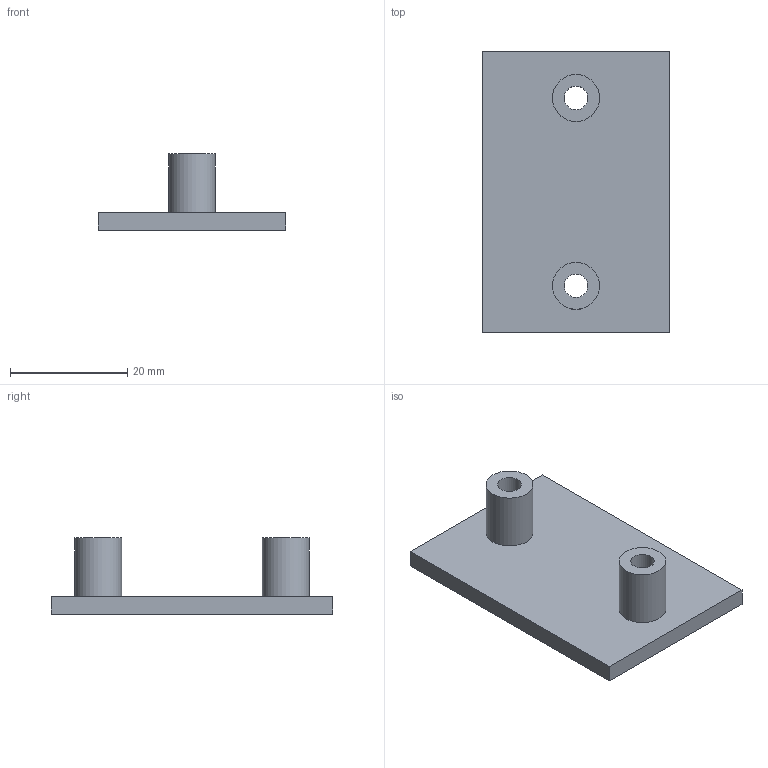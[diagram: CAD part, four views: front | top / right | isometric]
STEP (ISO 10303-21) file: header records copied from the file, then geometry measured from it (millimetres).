
FILE_DESCRIPTION(('Open CASCADE Model'),'2;1');
FILE_NAME('Open CASCADE Shape Model','2026-10-23T19:38:57',('Author'),( 'Open CASCADE'),'Open CASCADE STEP processor 8.0','Open CASCADE 8.0' ,'Unknown');
FILE_SCHEMA(('AUTOMOTIVE_DESIGN { 1 0 10303 214 1 1 1 1 }'));
Length unit declared in the file: millimetre
Products named in the file (4): Open CASCADE STEP translator 8.0 6; Open CASCADE STEP translator 8.0 6.1; Open CASCADE STEP translator 8.0 6.2; Open CASCADE STEP translator 8.0 6.3
Assembly tree (3 placements, depth 2):
  Open CASCADE STEP translator 8.0 6
    Open CASCADE STEP translator 8.0 6.1
    Open CASCADE STEP translator 8.0 6.2
    Open CASCADE STEP translator 8.0 6.3
Bounding box: 32 x 48 x 13 mm (x, y, z)
Volume: 5286.6 mm3; surface area: 4481.9 mm2
Topology: 3 solids, 3 shells, 16 faces, 30 edges, 20 vertices
Faces by surface type: plane 10, cylinder 6
Full cylindrical faces by diameter (mm): 4 x4, 8 x2
Entity records: 872 total; most frequent: DIRECTION 142, CARTESIAN_POINT 130, LINE 66, VECTOR 66, ORIENTED_EDGE 60, PCURVE 60, DEFINITIONAL_REPRESENTATION 60, AXIS2_PLACEMENT_3D 32
